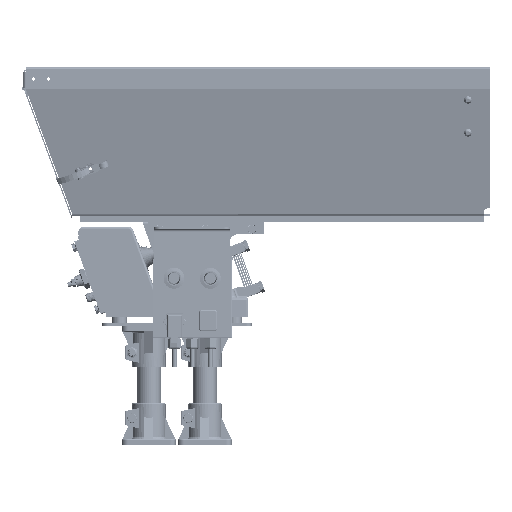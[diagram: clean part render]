
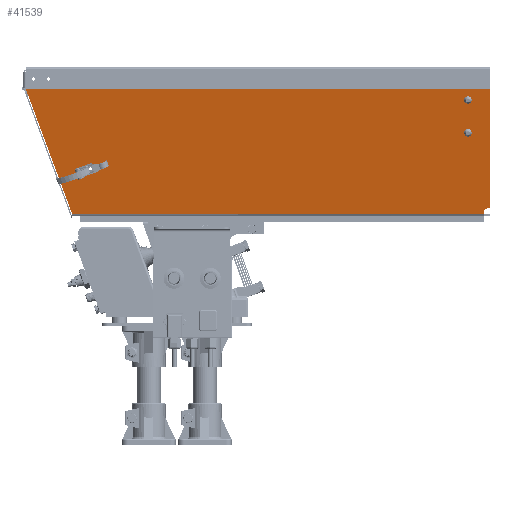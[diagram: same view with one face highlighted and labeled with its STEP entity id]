
A CAD part, front view. The second image highlights one B-rep face of the part: STEP entity #41539.
In plain terms, the highlighted planar face has unit normal (0, -0.982, -0.191).
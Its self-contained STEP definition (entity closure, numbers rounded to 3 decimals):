
#3140 = CARTESIAN_POINT ( 'NONE',  ( 348., -102.325, 11.963 ) ) ;
#8055 = DIRECTION ( 'NONE',  ( 0., 0.191, -0.982 ) ) ;
#8189 = CARTESIAN_POINT ( 'NONE',  ( -333.156, -113.444, 69.163 ) ) ;
#9442 = CIRCLE ( 'NONE', #36223, 2. ) ;
#13424 = AXIS2_PLACEMENT_3D ( 'NONE', #152330, #114574, #25071 ) ;
#14644 = VERTEX_POINT ( 'NONE', #96933 ) ;
#14999 = DIRECTION ( 'NONE',  ( 0., -0.191, 0.982 ) ) ;
#16517 = EDGE_LOOP ( 'NONE', ( #112540, #58793 ) ) ;
#17177 = CARTESIAN_POINT ( 'NONE',  ( -302.925, -75.247, -127.342 ) ) ;
#17471 = CARTESIAN_POINT ( 'NONE',  ( 348., -101.944, 10. ) ) ;
#18325 = FACE_OUTER_BOUND ( 'NONE', #159361, .T. ) ;
#19345 = DIRECTION ( 'NONE',  ( 0., 0.191, -0.982 ) ) ;
#20999 = CARTESIAN_POINT ( 'NONE',  ( -320., -114.882, 76.563 ) ) ;
#22148 = ORIENTED_EDGE ( 'NONE', *, *, #44781, .F. ) ;
#22453 = EDGE_CURVE ( 'NONE', #150017, #127195, #119301, .T. ) ;
#22610 = LINE ( 'NONE', #34365, #132456 ) ;
#24255 = CARTESIAN_POINT ( 'NONE',  ( 350., -102.325, 11.963 ) ) ;
#25071 = DIRECTION ( 'NONE',  ( 0., 0.191, -0.982 ) ) ;
#25135 = CARTESIAN_POINT ( 'NONE',  ( -333.156, -113.969, 71.863 ) ) ;
#25636 = CARTESIAN_POINT ( 'NONE',  ( 313., -137.853, 194.739 ) ) ;
#26809 = DIRECTION ( 'NONE',  ( 0., -0.982, -0.191 ) ) ;
#26893 = ORIENTED_EDGE ( 'NONE', *, *, #48978, .T. ) ;
#30900 = FACE_BOUND ( 'NONE', #146320, .T. ) ;
#32415 = DIRECTION ( 'NONE',  ( 0., 0.191, -0.982 ) ) ;
#33197 = DIRECTION ( 'NONE',  ( 0., -0.982, -0.191 ) ) ;
#33377 = CIRCLE ( 'NONE', #129472, 5. ) ;
#34365 = CARTESIAN_POINT ( 'NONE',  ( -350.6, -100.24, 1.237 ) ) ;
#35855 = LINE ( 'NONE', #89394, #83452 ) ;
#35951 = CARTESIAN_POINT ( 'NONE',  ( 313., -136.689, 188.751 ) ) ;
#36223 = AXIS2_PLACEMENT_3D ( 'NONE', #3140, #65986, #116963 ) ;
#37580 = DIRECTION ( 'NONE',  ( -1., 0., 0. ) ) ;
#38705 = AXIS2_PLACEMENT_3D ( 'NONE', #132281, #70400, #19345 ) ;
#38799 = CARTESIAN_POINT ( 'NONE',  ( 345., -100.99, 5.092 ) ) ;
#40034 = DIRECTION ( 'NONE',  ( 0., 0.191, -0.982 ) ) ;
#40681 = VERTEX_POINT ( 'NONE', #24255 ) ;
#40873 = CARTESIAN_POINT ( 'NONE',  ( -320., -114.358, 73.864 ) ) ;
#41539 = ADVANCED_FACE ( 'NONE', ( #30900, #42586, #55990, #80282, #18325 ), #154796, .F. ) ;
#42586 = FACE_BOUND ( 'NONE', #163658, .T. ) ;
#44781 = EDGE_CURVE ( 'NONE', #162688, #61045, #73493, .T. ) ;
#46917 = CARTESIAN_POINT ( 'NONE',  ( 313., -127.168, 139.767 ) ) ;
#48038 = CARTESIAN_POINT ( 'NONE',  ( -320., -115.407, 79.263 ) ) ;
#48594 = DIRECTION ( 'NONE',  ( 0., -0.982, -0.191 ) ) ;
#48978 = EDGE_CURVE ( 'NONE', #159374, #93772, #35855, .T. ) ;
#49713 = DIRECTION ( 'NONE',  ( 0., 0.982, 0.191 ) ) ;
#51064 = CARTESIAN_POINT ( 'NONE',  ( -427.93, -140.78, 209.795 ) ) ;
#51079 = VERTEX_POINT ( 'NONE', #46917 ) ;
#51136 = VECTOR ( 'NONE', #37580, 1000. ) ;
#51971 = EDGE_CURVE ( 'NONE', #76016, #51079, #60104, .T. ) ;
#52585 = DIRECTION ( 'NONE',  ( 0., -0.982, -0.191 ) ) ;
#53822 = AXIS2_PLACEMENT_3D ( 'NONE', #143868, #132062, #14999 ) ;
#55990 = FACE_BOUND ( 'NONE', #16517, .T. ) ;
#58793 = ORIENTED_EDGE ( 'NONE', *, *, #149787, .F. ) ;
#60040 = VECTOR ( 'NONE', #76030, 1000. ) ;
#60104 = CIRCLE ( 'NONE', #38705, 3.05 ) ;
#60997 = ORIENTED_EDGE ( 'NONE', *, *, #163233, .F. ) ;
#61045 = VERTEX_POINT ( 'NONE', #8189 ) ;
#62755 = CIRCLE ( 'NONE', #100115, 3.05 ) ;
#63210 = AXIS2_PLACEMENT_3D ( 'NONE', #20999, #48594, #136421 ) ;
#63598 = ORIENTED_EDGE ( 'NONE', *, *, #156068, .T. ) ;
#65732 = AXIS2_PLACEMENT_3D ( 'NONE', #124361, #33197, #8055 ) ;
#65986 = DIRECTION ( 'NONE',  ( 0., -0.982, -0.191 ) ) ;
#67693 = EDGE_CURVE ( 'NONE', #61045, #162688, #75653, .T. ) ;
#68236 = DIRECTION ( 'NONE',  ( 0.342, 0.179, -0.922 ) ) ;
#69113 = CARTESIAN_POINT ( 'NONE',  ( 350., -140.78, 209.795 ) ) ;
#70400 = DIRECTION ( 'NONE',  ( 0., -0.982, -0.191 ) ) ;
#71303 = ORIENTED_EDGE ( 'NONE', *, *, #133113, .T. ) ;
#71574 = EDGE_CURVE ( 'NONE', #101112, #126043, #95197, .T. ) ;
#72798 = VERTEX_POINT ( 'NONE', #35951 ) ;
#73493 = CIRCLE ( 'NONE', #102826, 2.75 ) ;
#73560 = CARTESIAN_POINT ( 'NONE',  ( 350., -96.285, -19.112 ) ) ;
#74493 = DIRECTION ( 'NONE',  ( -1., 0., 0. ) ) ;
#75653 = CIRCLE ( 'NONE', #134348, 2.75 ) ;
#76016 = VERTEX_POINT ( 'NONE', #91254 ) ;
#76030 = DIRECTION ( 'NONE',  ( 0., -0.191, 0.982 ) ) ;
#76801 = CARTESIAN_POINT ( 'NONE',  ( 345., -101.944, 10. ) ) ;
#78345 = ORIENTED_EDGE ( 'NONE', *, *, #67693, .F. ) ;
#80125 = DIRECTION ( 'NONE',  ( 0., 0.191, -0.982 ) ) ;
#80282 = FACE_BOUND ( 'NONE', #128903, .T. ) ;
#83452 = VECTOR ( 'NONE', #150525, 1000. ) ;
#86896 = EDGE_CURVE ( 'NONE', #72798, #99650, #123011, .T. ) ;
#87171 = VERTEX_POINT ( 'NONE', #99364 ) ;
#89394 = CARTESIAN_POINT ( 'NONE',  ( 0., -101.944, 10. ) ) ;
#91213 = EDGE_CURVE ( 'NONE', #93772, #40681, #9442, .T. ) ;
#91254 = CARTESIAN_POINT ( 'NONE',  ( 313., -126.004, 133.779 ) ) ;
#91867 = CARTESIAN_POINT ( 'NONE',  ( 313., -126.586, 136.773 ) ) ;
#92469 = CARTESIAN_POINT ( 'NONE',  ( 340., -96.285, -19.112 ) ) ;
#93006 = ORIENTED_EDGE ( 'NONE', *, *, #104012, .T. ) ;
#93339 = LINE ( 'NONE', #17177, #112820 ) ;
#93772 = VERTEX_POINT ( 'NONE', #17471 ) ;
#94142 = VERTEX_POINT ( 'NONE', #104292 ) ;
#95197 = CIRCLE ( 'NONE', #63210, 2.75 ) ;
#96361 = CARTESIAN_POINT ( 'NONE',  ( -333.156, -114.493, 74.562 ) ) ;
#96933 = CARTESIAN_POINT ( 'NONE',  ( 340., -100.99, 5.092 ) ) ;
#99364 = CARTESIAN_POINT ( 'NONE',  ( 340., -100.24, 1.237 ) ) ;
#99617 = ORIENTED_EDGE ( 'NONE', *, *, #134315, .F. ) ;
#99650 = VERTEX_POINT ( 'NONE', #25636 ) ;
#100115 = AXIS2_PLACEMENT_3D ( 'NONE', #91867, #165540, #32415 ) ;
#101112 = VERTEX_POINT ( 'NONE', #48038 ) ;
#102826 = AXIS2_PLACEMENT_3D ( 'NONE', #141404, #26809, #80125 ) ;
#104012 = EDGE_CURVE ( 'NONE', #87171, #14644, #157760, .T. ) ;
#104292 = CARTESIAN_POINT ( 'NONE',  ( -350.6, -100.24, 1.237 ) ) ;
#104817 = EDGE_CURVE ( 'NONE', #40681, #150017, #163107, .T. ) ;
#110711 = ORIENTED_EDGE ( 'NONE', *, *, #122406, .F. ) ;
#112540 = ORIENTED_EDGE ( 'NONE', *, *, #51971, .F. ) ;
#112820 = VECTOR ( 'NONE', #68236, 1000. ) ;
#113198 = ORIENTED_EDGE ( 'NONE', *, *, #22453, .T. ) ;
#114574 = DIRECTION ( 'NONE',  ( 0., -0.982, -0.191 ) ) ;
#115470 = DIRECTION ( 'NONE',  ( 0., 0.191, -0.982 ) ) ;
#116141 = CARTESIAN_POINT ( 'NONE',  ( 313., -137.271, 191.745 ) ) ;
#116263 = DIRECTION ( 'NONE',  ( 0., -0.982, -0.191 ) ) ;
#116963 = DIRECTION ( 'NONE',  ( 0., -0.191, 0.982 ) ) ;
#119301 = LINE ( 'NONE', #69113, #51136 ) ;
#120908 = AXIS2_PLACEMENT_3D ( 'NONE', #116141, #52585, #40034 ) ;
#122406 = EDGE_CURVE ( 'NONE', #87171, #94142, #22610, .T. ) ;
#123011 = CIRCLE ( 'NONE', #13424, 3.05 ) ;
#124361 = CARTESIAN_POINT ( 'NONE',  ( -320., -114.882, 76.563 ) ) ;
#125043 = DIRECTION ( 'NONE',  ( 0., -0.191, 0.982 ) ) ;
#126043 = VERTEX_POINT ( 'NONE', #40873 ) ;
#127195 = VERTEX_POINT ( 'NONE', #51064 ) ;
#127689 = ORIENTED_EDGE ( 'NONE', *, *, #104817, .T. ) ;
#128903 = EDGE_LOOP ( 'NONE', ( #140738, #99617 ) ) ;
#129472 = AXIS2_PLACEMENT_3D ( 'NONE', #38799, #49713, #125043 ) ;
#132062 = DIRECTION ( 'NONE',  ( 0., 0.982, 0.191 ) ) ;
#132281 = CARTESIAN_POINT ( 'NONE',  ( 313., -126.586, 136.773 ) ) ;
#132456 = VECTOR ( 'NONE', #74493, 1000. ) ;
#133113 = EDGE_CURVE ( 'NONE', #127195, #94142, #93339, .T. ) ;
#134206 = CARTESIAN_POINT ( 'NONE',  ( 350., -140.78, 209.795 ) ) ;
#134315 = EDGE_CURVE ( 'NONE', #99650, #72798, #142263, .T. ) ;
#134348 = AXIS2_PLACEMENT_3D ( 'NONE', #25135, #116263, #115470 ) ;
#135817 = ORIENTED_EDGE ( 'NONE', *, *, #91213, .T. ) ;
#136421 = DIRECTION ( 'NONE',  ( 0., 0.191, -0.982 ) ) ;
#140738 = ORIENTED_EDGE ( 'NONE', *, *, #86896, .F. ) ;
#141404 = CARTESIAN_POINT ( 'NONE',  ( -333.156, -113.969, 71.863 ) ) ;
#141417 = ORIENTED_EDGE ( 'NONE', *, *, #71574, .F. ) ;
#142263 = CIRCLE ( 'NONE', #120908, 3.05 ) ;
#143535 = DIRECTION ( 'NONE',  ( 0., -0.191, 0.982 ) ) ;
#143868 = CARTESIAN_POINT ( 'NONE',  ( 0., -96.285, -19.112 ) ) ;
#145904 = CIRCLE ( 'NONE', #65732, 2.75 ) ;
#146320 = EDGE_LOOP ( 'NONE', ( #60997, #141417 ) ) ;
#149787 = EDGE_CURVE ( 'NONE', #51079, #76016, #62755, .T. ) ;
#150017 = VERTEX_POINT ( 'NONE', #134206 ) ;
#150525 = DIRECTION ( 'NONE',  ( 1., 0., 0. ) ) ;
#152330 = CARTESIAN_POINT ( 'NONE',  ( 313., -137.271, 191.745 ) ) ;
#154796 = PLANE ( 'NONE',  #53822 ) ;
#156068 = EDGE_CURVE ( 'NONE', #14644, #159374, #33377, .T. ) ;
#157760 = LINE ( 'NONE', #92469, #158744 ) ;
#158744 = VECTOR ( 'NONE', #143535, 1000. ) ;
#159361 = EDGE_LOOP ( 'NONE', ( #26893, #135817, #127689, #113198, #71303, #110711, #93006, #63598 ) ) ;
#159374 = VERTEX_POINT ( 'NONE', #76801 ) ;
#162688 = VERTEX_POINT ( 'NONE', #96361 ) ;
#163107 = LINE ( 'NONE', #73560, #60040 ) ;
#163233 = EDGE_CURVE ( 'NONE', #126043, #101112, #145904, .T. ) ;
#163658 = EDGE_LOOP ( 'NONE', ( #78345, #22148 ) ) ;
#165540 = DIRECTION ( 'NONE',  ( 0., -0.982, -0.191 ) ) ;
